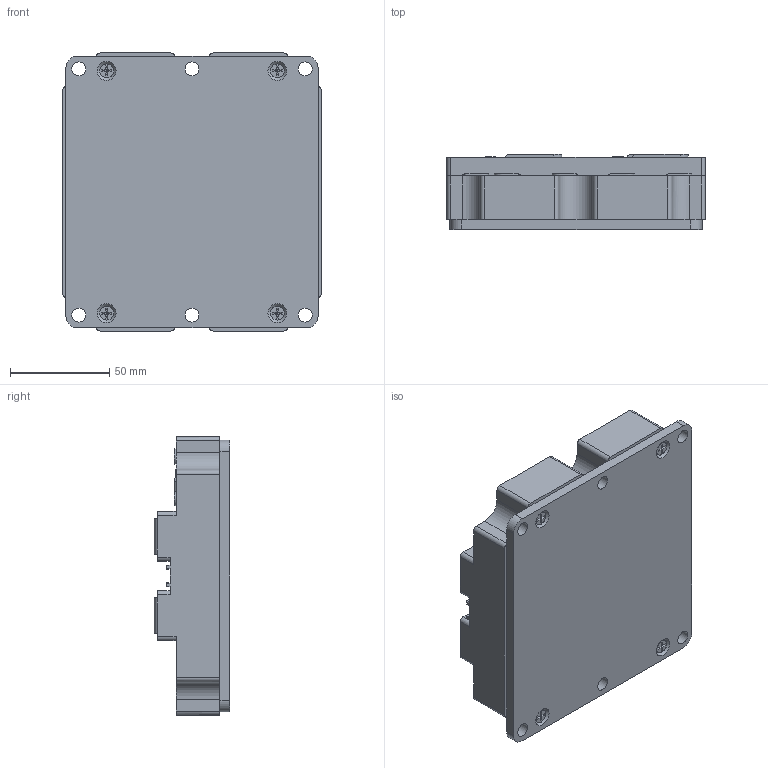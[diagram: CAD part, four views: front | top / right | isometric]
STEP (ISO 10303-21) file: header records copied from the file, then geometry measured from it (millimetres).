
FILE_DESCRIPTION (( 'STEP AP214' ), '1' );
FILE_NAME ('LD-ES-170634-MBM500E33E2-R.STEP', '2017-08-28T04:37:23', ( 'Flora110' ), ( '' ), 'SwSTEP 2.0', 'SolidWorks 2010', '' );
FILE_SCHEMA (( 'AUTOMOTIVE_DESIGN' ));
Length unit declared in the file: millimetre
Products named in the file (1): LD-ES-170634-MBM500E33E2-R
Bounding box: 130 x 38 x 140 mm (x, y, z)
Volume: 514694.3 mm3; surface area: 69964.3 mm2
Topology: 1 solids, 39 shells, 1321 faces, 3291 edges, 2122 vertices
Faces by surface type: plane 658, bspline 384, cylinder 279
Full cylindrical faces by diameter (mm): 3.1 x4, 3.5 x4, 4 x5, 4.5 x4, 5 x7, 7 x10, 8 x4, 9 x4, 9.3 x2, 9.5 x4, 18 x4
Entity records: 46248 total; most frequent: CARTESIAN_POINT 16989, ORIENTED_EDGE 6326, DIRECTION 5308, EDGE_CURVE 3163, VERTEX_POINT 2087, LINE 1864, VECTOR 1864, AXIS2_PLACEMENT_3D 1722
